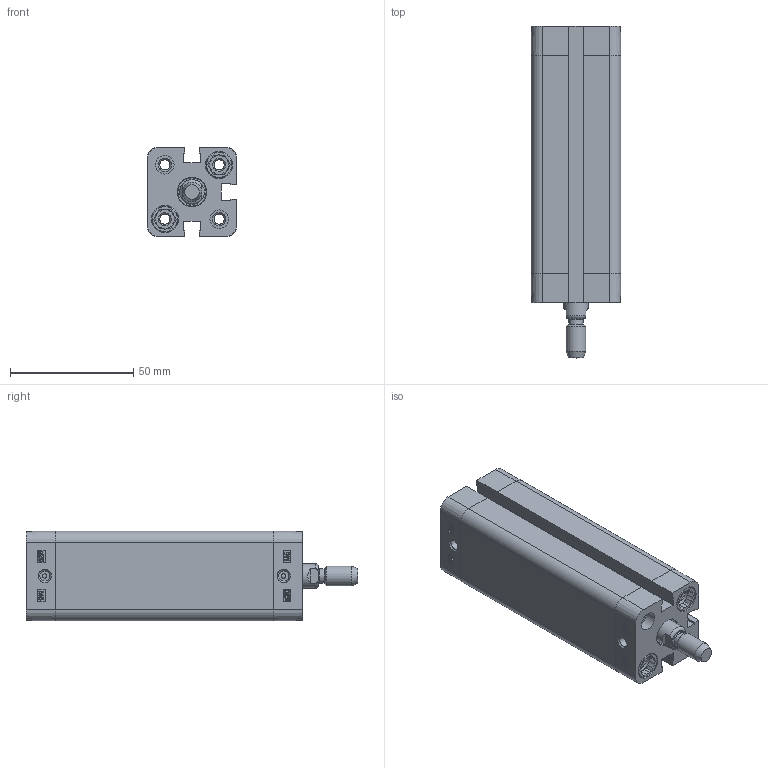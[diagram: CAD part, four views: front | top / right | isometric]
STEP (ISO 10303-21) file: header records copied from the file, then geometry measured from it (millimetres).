
FILE_DESCRIPTION((''),'2;1');
FILE_NAME('T:\Archivio Inventor\- CATALOGHI 2012\SERIE P - NUOVA\PDM\PDM020\PDM020.---.GS.M\STEP\PDM020.075.GS.M.stp','2013-01-30T10:58:24',('Administrator'),(''),'Autodesk Inventor 2012','Autodesk Inventor 2012','');
FILE_SCHEMA(('CONFIG_CONTROL_DESIGN'));
Length unit declared in the file: millimetre
Products named in the file (1): PDM020.075.GS.M
Bounding box: 36.3 x 134.6 x 36.3 mm (x, y, z)
Volume: 77465.6 mm3; surface area: 44549.4 mm2
Topology: 1 solids, 3 shells, 489 faces, 1225 edges, 798 vertices
Faces by surface type: plane 245, bspline 94, cylinder 88, cone 50, torus 12
Full cylindrical faces by diameter (mm): 1.75 x2, 4.134 x10, 5.8 x1, 7.5 x4, 7.55 x2, 8 x9, 9 x1, 10 x1, 10.8 x4, 11.1 x4, 11.4 x1, 20 x1, 22.3 x1, 22.5 x1
Entity records: 15057 total; most frequent: CARTESIAN_POINT 3740, ORIENTED_EDGE 2232, DIRECTION 1950, EDGE_CURVE 1116, VERTEX_POINT 782, VECTOR 670, LINE 670, EDGE_LOOP 652
